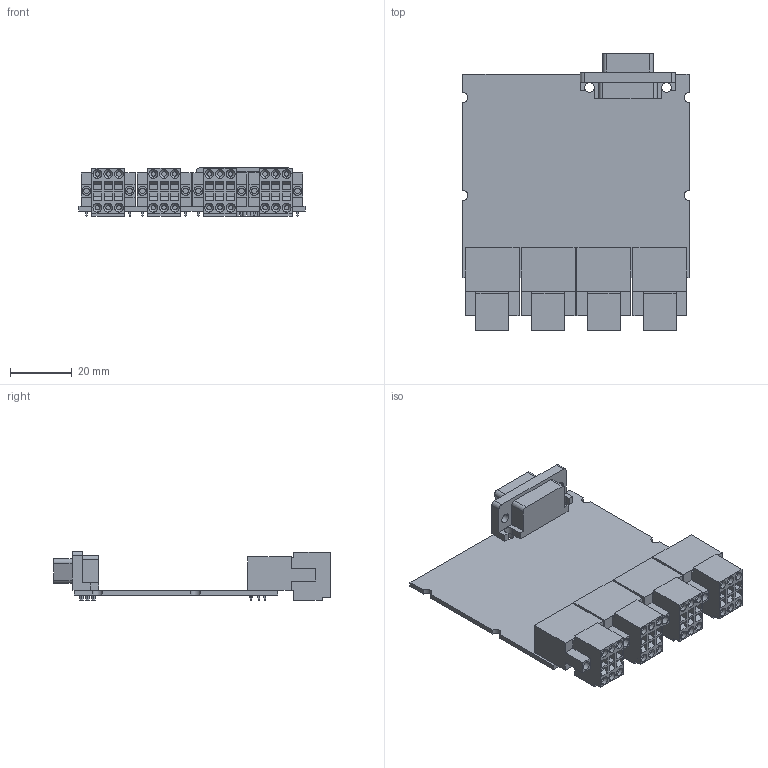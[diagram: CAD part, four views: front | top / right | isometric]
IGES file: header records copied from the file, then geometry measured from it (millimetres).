
Start section:  PTC IGES file: cd_ni_9219e.igs
Global section: file name: cd_ni_9219e.igs; native system: Pro/ENGINEER by Parametric Technology Corporation; preprocessor: 2006080; author: scarrasc; organization: Unknown; date: 100202.164004; units: inch
Bounding box: 73.38 x 89.79 x 15.85 mm (x, y, z)
Surface area: 20207 mm2 (no closed solid volume)
Topology: 0 solids, 0 shells, 1018 faces, 5128 edges, 5128 vertices
Faces by surface type: bspline 632, revolution 386
